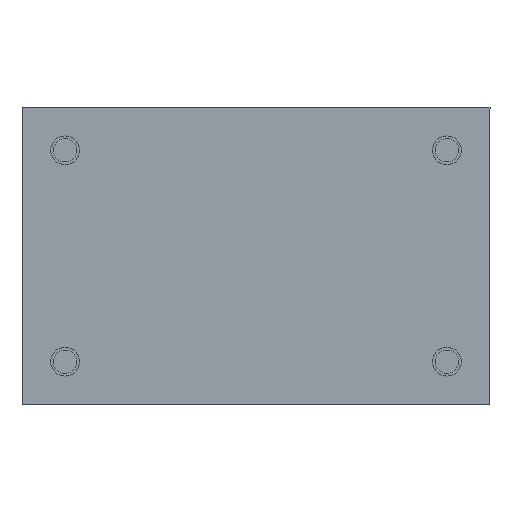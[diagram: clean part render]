
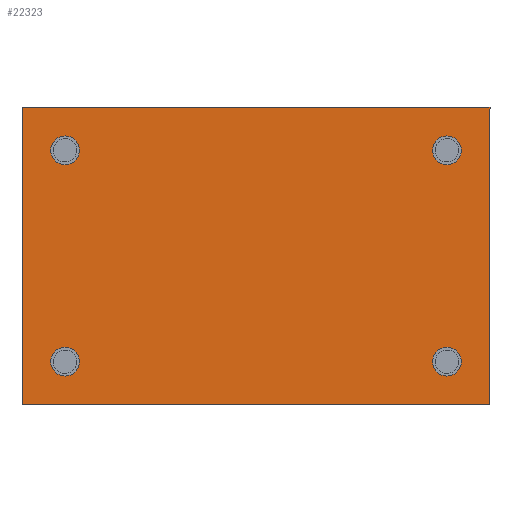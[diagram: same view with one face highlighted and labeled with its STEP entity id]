
A CAD part, front view. The second image highlights one B-rep face of the part: STEP entity #22323.
In plain terms, the highlighted planar face has unit normal (0, -1, 0).
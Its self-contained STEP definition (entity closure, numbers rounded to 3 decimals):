
#317 = LINE ( 'NONE', #9855, #1628 ) ;
#354 = AXIS2_PLACEMENT_3D ( 'NONE', #1382, #14473, #5050 ) ;
#739 = CIRCLE ( 'NONE', #3153, 1.778 ) ;
#918 = VERTEX_POINT ( 'NONE', #9900 ) ;
#1093 = CARTESIAN_POINT ( 'NONE',  ( 46.072, 13.272, 34.682 ) ) ;
#1367 = DIRECTION ( 'NONE',  ( 1., 0., 0. ) ) ;
#1382 = CARTESIAN_POINT ( 'NONE',  ( 51.406, 13.272, 66.178 ) ) ;
#1628 = VECTOR ( 'NONE', #13654, 1000. ) ;
#2065 = CARTESIAN_POINT ( 'NONE',  ( 0.606, 13.272, 34.682 ) ) ;
#2625 = CIRCLE ( 'NONE', #19857, 1.778 ) ;
#2935 = ORIENTED_EDGE ( 'NONE', *, *, #8586, .F. ) ;
#3153 = AXIS2_PLACEMENT_3D ( 'NONE', #4939, #14127, #17992 ) ;
#3671 = EDGE_CURVE ( 'NONE', #8263, #19695, #739, .T. ) ;
#3783 = CIRCLE ( 'NONE', #6992, 1.778 ) ;
#3979 = CARTESIAN_POINT ( 'NONE',  ( 44.294, 13.272, 34.682 ) ) ;
#4136 = AXIS2_PLACEMENT_3D ( 'NONE', #1093, #20393, #10530 ) ;
#4518 = ORIENTED_EDGE ( 'NONE', *, *, #16697, .F. ) ;
#4939 = CARTESIAN_POINT ( 'NONE',  ( 46.072, 13.272, 34.682 ) ) ;
#4985 = DIRECTION ( 'NONE',  ( 0., -1., 0. ) ) ;
#5005 = CARTESIAN_POINT ( 'NONE',  ( -2.95, 13.272, 60.844 ) ) ;
#5050 = DIRECTION ( 'NONE',  ( -1., 0., 0. ) ) ;
#5137 = CARTESIAN_POINT ( 'NONE',  ( -1.172, 13.272, 34.682 ) ) ;
#5156 = EDGE_CURVE ( 'NONE', #19695, #8263, #14945, .T. ) ;
#5182 = VERTEX_POINT ( 'NONE', #24662 ) ;
#5902 = CARTESIAN_POINT ( 'NONE',  ( 46.072, 13.272, 60.844 ) ) ;
#6141 = VERTEX_POINT ( 'NONE', #13546 ) ;
#6429 = CARTESIAN_POINT ( 'NONE',  ( 51.406, 13.272, 66.178 ) ) ;
#6501 = CIRCLE ( 'NONE', #14139, 1.778 ) ;
#6549 = VERTEX_POINT ( 'NONE', #21734 ) ;
#6618 = CARTESIAN_POINT ( 'NONE',  ( -1.172, 13.272, 60.844 ) ) ;
#6992 = AXIS2_PLACEMENT_3D ( 'NONE', #20469, #8087, #21082 ) ;
#7212 = EDGE_CURVE ( 'NONE', #10393, #15365, #20402, .T. ) ;
#7644 = EDGE_CURVE ( 'NONE', #15365, #10393, #3783, .T. ) ;
#7689 = VECTOR ( 'NONE', #23278, 1000. ) ;
#8087 = DIRECTION ( 'NONE',  ( 0., -1., 0. ) ) ;
#8263 = VERTEX_POINT ( 'NONE', #11387 ) ;
#8538 = DIRECTION ( 'NONE',  ( 0., 0., -1. ) ) ;
#8586 = EDGE_CURVE ( 'NONE', #6141, #10374, #2625, .T. ) ;
#8664 = CARTESIAN_POINT ( 'NONE',  ( 51.406, 13.272, 66.178 ) ) ;
#9015 = CARTESIAN_POINT ( 'NONE',  ( 0.606, 13.272, 60.844 ) ) ;
#9294 = DIRECTION ( 'NONE',  ( 0., -1., 0. ) ) ;
#9565 = EDGE_LOOP ( 'NONE', ( #4518, #2935 ) ) ;
#9698 = ORIENTED_EDGE ( 'NONE', *, *, #7644, .F. ) ;
#9855 = CARTESIAN_POINT ( 'NONE',  ( 51.406, 13.272, 29.348 ) ) ;
#9900 = CARTESIAN_POINT ( 'NONE',  ( 51.406, 13.272, 29.348 ) ) ;
#9950 = PLANE ( 'NONE',  #354 ) ;
#10373 = DIRECTION ( 'NONE',  ( 1., 0., 0. ) ) ;
#10374 = VERTEX_POINT ( 'NONE', #24521 ) ;
#10393 = VERTEX_POINT ( 'NONE', #2065 ) ;
#10426 = AXIS2_PLACEMENT_3D ( 'NONE', #5137, #15039, #14917 ) ;
#10530 = DIRECTION ( 'NONE',  ( 1., 0., 0. ) ) ;
#10636 = LINE ( 'NONE', #8664, #14939 ) ;
#11387 = CARTESIAN_POINT ( 'NONE',  ( 47.85, 13.272, 34.682 ) ) ;
#11503 = ORIENTED_EDGE ( 'NONE', *, *, #5156, .F. ) ;
#11709 = AXIS2_PLACEMENT_3D ( 'NONE', #24567, #9294, #15050 ) ;
#11874 = EDGE_LOOP ( 'NONE', ( #12520, #11503 ) ) ;
#11912 = EDGE_LOOP ( 'NONE', ( #14067, #12736, #20659, #17238 ) ) ;
#12081 = DIRECTION ( 'NONE',  ( 1., 0., 0. ) ) ;
#12226 = CARTESIAN_POINT ( 'NONE',  ( -2.95, 13.272, 34.682 ) ) ;
#12520 = ORIENTED_EDGE ( 'NONE', *, *, #3671, .F. ) ;
#12736 = ORIENTED_EDGE ( 'NONE', *, *, #16386, .F. ) ;
#13120 = EDGE_LOOP ( 'NONE', ( #14299, #18860 ) ) ;
#13310 = VERTEX_POINT ( 'NONE', #5005 ) ;
#13437 = EDGE_CURVE ( 'NONE', #918, #5182, #317, .T. ) ;
#13546 = CARTESIAN_POINT ( 'NONE',  ( 44.294, 13.272, 60.844 ) ) ;
#13654 = DIRECTION ( 'NONE',  ( -1., 0., 0. ) ) ;
#13683 = VECTOR ( 'NONE', #1367, 1000. ) ;
#13906 = LINE ( 'NONE', #21498, #7689 ) ;
#13996 = FACE_BOUND ( 'NONE', #13120, .T. ) ;
#14067 = ORIENTED_EDGE ( 'NONE', *, *, #18653, .F. ) ;
#14127 = DIRECTION ( 'NONE',  ( 0., -1., 0. ) ) ;
#14139 = AXIS2_PLACEMENT_3D ( 'NONE', #14557, #16548, #24196 ) ;
#14299 = ORIENTED_EDGE ( 'NONE', *, *, #15718, .F. ) ;
#14473 = DIRECTION ( 'NONE',  ( 0., 1., 0. ) ) ;
#14557 = CARTESIAN_POINT ( 'NONE',  ( 46.072, 13.272, 60.844 ) ) ;
#14689 = CARTESIAN_POINT ( 'NONE',  ( 51.406, 13.272, 66.178 ) ) ;
#14805 = EDGE_CURVE ( 'NONE', #5182, #6549, #13906, .T. ) ;
#14917 = DIRECTION ( 'NONE',  ( 1., 0., 0. ) ) ;
#14939 = VECTOR ( 'NONE', #8538, 1000. ) ;
#14945 = CIRCLE ( 'NONE', #4136, 1.778 ) ;
#15039 = DIRECTION ( 'NONE',  ( 0., -1., 0. ) ) ;
#15050 = DIRECTION ( 'NONE',  ( 1., 0., 0. ) ) ;
#15365 = VERTEX_POINT ( 'NONE', #12226 ) ;
#15718 = EDGE_CURVE ( 'NONE', #21612, #13310, #24104, .T. ) ;
#15981 = FACE_BOUND ( 'NONE', #9565, .T. ) ;
#16386 = EDGE_CURVE ( 'NONE', #6549, #19091, #24574, .T. ) ;
#16488 = CIRCLE ( 'NONE', #11709, 1.778 ) ;
#16548 = DIRECTION ( 'NONE',  ( 0., -1., 0. ) ) ;
#16697 = EDGE_CURVE ( 'NONE', #10374, #6141, #6501, .T. ) ;
#17238 = ORIENTED_EDGE ( 'NONE', *, *, #13437, .F. ) ;
#17992 = DIRECTION ( 'NONE',  ( 1., 0., 0. ) ) ;
#18366 = EDGE_LOOP ( 'NONE', ( #18671, #9698 ) ) ;
#18653 = EDGE_CURVE ( 'NONE', #19091, #918, #10636, .T. ) ;
#18671 = ORIENTED_EDGE ( 'NONE', *, *, #7212, .F. ) ;
#18860 = ORIENTED_EDGE ( 'NONE', *, *, #23455, .F. ) ;
#19091 = VERTEX_POINT ( 'NONE', #6429 ) ;
#19485 = FACE_BOUND ( 'NONE', #18366, .T. ) ;
#19695 = VERTEX_POINT ( 'NONE', #3979 ) ;
#19857 = AXIS2_PLACEMENT_3D ( 'NONE', #5902, #21188, #12081 ) ;
#20393 = DIRECTION ( 'NONE',  ( 0., -1., 0. ) ) ;
#20402 = CIRCLE ( 'NONE', #10426, 1.778 ) ;
#20469 = CARTESIAN_POINT ( 'NONE',  ( -1.172, 13.272, 34.682 ) ) ;
#20659 = ORIENTED_EDGE ( 'NONE', *, *, #14805, .F. ) ;
#21082 = DIRECTION ( 'NONE',  ( 1., 0., 0. ) ) ;
#21188 = DIRECTION ( 'NONE',  ( 0., -1., 0. ) ) ;
#21498 = CARTESIAN_POINT ( 'NONE',  ( -6.506, 13.272, 66.178 ) ) ;
#21612 = VERTEX_POINT ( 'NONE', #9015 ) ;
#21734 = CARTESIAN_POINT ( 'NONE',  ( -6.506, 13.272, 66.178 ) ) ;
#21830 = FACE_OUTER_BOUND ( 'NONE', #11912, .T. ) ;
#22323 = ADVANCED_FACE ( 'NONE', ( #15981, #23618, #19485, #13996, #21830 ), #9950, .F. ) ;
#22483 = AXIS2_PLACEMENT_3D ( 'NONE', #6618, #4985, #10373 ) ;
#23278 = DIRECTION ( 'NONE',  ( 0., 0., 1. ) ) ;
#23455 = EDGE_CURVE ( 'NONE', #13310, #21612, #16488, .T. ) ;
#23618 = FACE_BOUND ( 'NONE', #11874, .T. ) ;
#24104 = CIRCLE ( 'NONE', #22483, 1.778 ) ;
#24196 = DIRECTION ( 'NONE',  ( 1., 0., 0. ) ) ;
#24521 = CARTESIAN_POINT ( 'NONE',  ( 47.85, 13.272, 60.844 ) ) ;
#24567 = CARTESIAN_POINT ( 'NONE',  ( -1.172, 13.272, 60.844 ) ) ;
#24574 = LINE ( 'NONE', #14689, #13683 ) ;
#24662 = CARTESIAN_POINT ( 'NONE',  ( -6.506, 13.272, 29.348 ) ) ;
